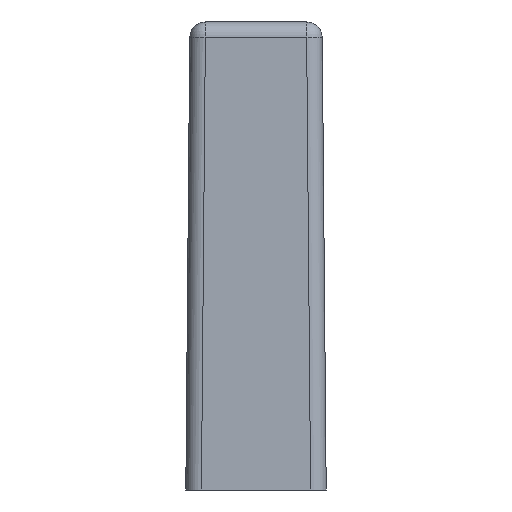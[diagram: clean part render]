
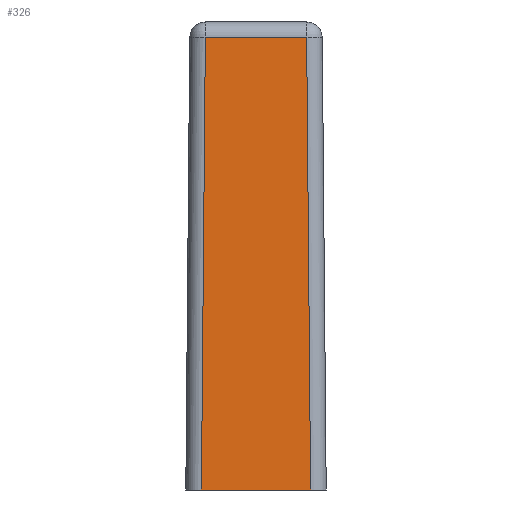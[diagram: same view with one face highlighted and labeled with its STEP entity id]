
A CAD part, front view. The second image highlights one B-rep face of the part: STEP entity #326.
In plain terms, the highlighted planar face has unit normal (0, -1, 0.018).
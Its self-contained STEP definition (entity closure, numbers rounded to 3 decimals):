
#326 = ADVANCED_FACE( '', ( #660 ), #661, .F. );
#660 = FACE_OUTER_BOUND( '', #1293, .T. );
#661 = PLANE( '', #1294 );
#1293 = EDGE_LOOP( '', ( #2141, #2142, #2143, #2144 ) );
#1294 = AXIS2_PLACEMENT_3D( '', #2145, #2146, #2147 );
#2141 = ORIENTED_EDGE( '', *, *, #2738, .F. );
#2142 = ORIENTED_EDGE( '', *, *, #2595, .F. );
#2143 = ORIENTED_EDGE( '', *, *, #2496, .F. );
#2144 = ORIENTED_EDGE( '', *, *, #2739, .F. );
#2145 = CARTESIAN_POINT( '', ( 5., -260.501, 0. ) );
#2146 = DIRECTION( '', ( 0., 1., -0.017 ) );
#2147 = DIRECTION( '', ( 0., -0.017, -1. ) );
#2496 = EDGE_CURVE( '', #2936, #2937, #2938, .F. );
#2595 = EDGE_CURVE( '', #2937, #3088, #3091, .T. );
#2738 = EDGE_CURVE( '', #3088, #3278, #3279, .T. );
#2739 = EDGE_CURVE( '', #3278, #2936, #3280, .T. );
#2936 = VERTEX_POINT( '', #3542 );
#2937 = VERTEX_POINT( '', #3543 );
#2938 = LINE( '', #3544, #3545 );
#3088 = VERTEX_POINT( '', #3764 );
#3091 = LINE( '', #3767, #3768 );
#3278 = VERTEX_POINT( '', #4061 );
#3279 = LINE( '', #4062, #4063 );
#3280 = LINE( '', #4064, #4065 );
#3542 = CARTESIAN_POINT( '', ( -3.247, -259.994, 29.017 ) );
#3543 = CARTESIAN_POINT( '', ( 3.247, -259.994, 29.017 ) );
#3544 = CARTESIAN_POINT( '', ( 5., -259.994, 29.017 ) );
#3545 = VECTOR( '', #4222, 1000. );
#3764 = CARTESIAN_POINT( '', ( 3.5, -260.501, 0. ) );
#3767 = CARTESIAN_POINT( '', ( 3.5, -260.501, -0.013 ) );
#3768 = VECTOR( '', #4338, 1000. );
#4061 = CARTESIAN_POINT( '', ( -3.5, -260.501, 0. ) );
#4062 = CARTESIAN_POINT( '', ( 5., -260.501, 0. ) );
#4063 = VECTOR( '', #4454, 1000. );
#4064 = CARTESIAN_POINT( '', ( -3.499, -260.499, 0.074 ) );
#4065 = VECTOR( '', #4455, 1000. );
#4222 = DIRECTION( '', ( -1., 0., 0. ) );
#4338 = DIRECTION( '', ( 0.009, -0.017, -1. ) );
#4454 = DIRECTION( '', ( -1., 0., 0. ) );
#4455 = DIRECTION( '', ( 0.009, 0.017, 1. ) );
